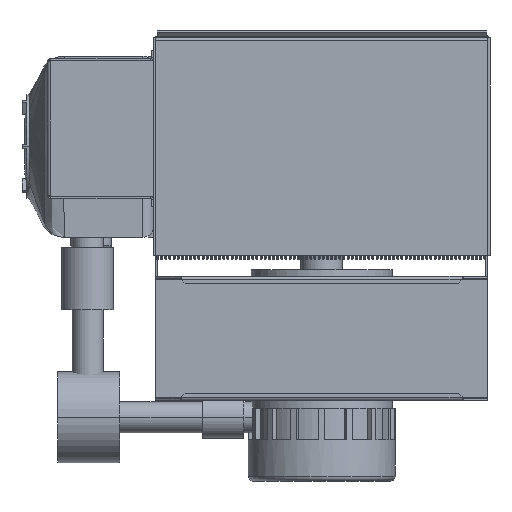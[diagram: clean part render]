
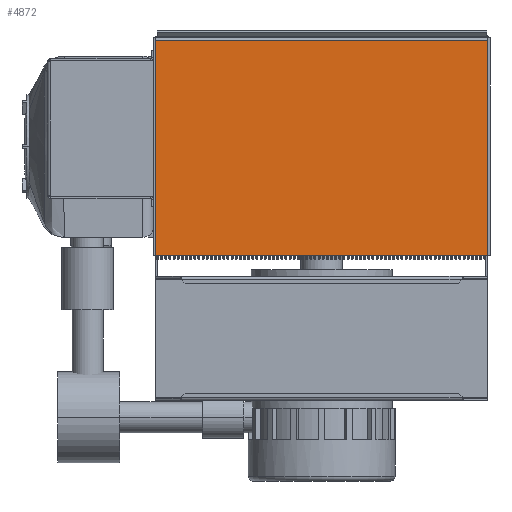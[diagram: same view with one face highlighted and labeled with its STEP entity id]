
A CAD part, front view. The second image highlights one B-rep face of the part: STEP entity #4872.
In plain terms, the highlighted planar face has unit normal (0, -1, 0) as drawn and (0, 0, 1) by its records, which use the part's own axes.
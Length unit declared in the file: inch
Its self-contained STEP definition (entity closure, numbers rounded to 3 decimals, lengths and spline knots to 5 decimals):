
#926 = AXIS2_PLACEMENT_3D ( 'NONE', #5507, #8531, #20781 ) ;
#2690 = ORIENTED_EDGE ( 'NONE', *, *, #19853, .T. ) ;
#2956 = DIRECTION ( 'NONE',  ( 1., 0., 0. ) ) ;
#4872 = ADVANCED_FACE ( 'NONE', ( #17079 ), #26777, .F. ) ;
#5507 = CARTESIAN_POINT ( 'NONE',  ( 0., 0., 0. ) ) ;
#6963 = EDGE_LOOP ( 'NONE', ( #2690, #24053, #31552, #30215 ) ) ;
#7127 = VERTEX_POINT ( 'NONE', #38735 ) ;
#8303 = LINE ( 'NONE', #30441, #34934 ) ;
#8531 = DIRECTION ( 'NONE',  ( 0., 0., -1. ) ) ;
#9084 = CARTESIAN_POINT ( 'NONE',  ( 8.025, 5.25, 0. ) ) ;
#12362 = CARTESIAN_POINT ( 'NONE',  ( 8.025, -5.1, 0. ) ) ;
#16361 = VERTEX_POINT ( 'NONE', #38157 ) ;
#17079 = FACE_OUTER_BOUND ( 'NONE', #6963, .T. ) ;
#17869 = DIRECTION ( 'NONE',  ( -1., 0., 0. ) ) ;
#18122 = VECTOR ( 'NONE', #35763, 39.37008 ) ;
#18180 = CARTESIAN_POINT ( 'NONE',  ( 8.025, 5.25, 0. ) ) ;
#19853 = EDGE_CURVE ( 'NONE', #7127, #27321, #8303, .T. ) ;
#20781 = DIRECTION ( 'NONE',  ( -1., 0., 0. ) ) ;
#22348 = VECTOR ( 'NONE', #17869, 39.37008 ) ;
#23200 = DIRECTION ( 'NONE',  ( 0., 1., 0. ) ) ;
#24053 = ORIENTED_EDGE ( 'NONE', *, *, #28340, .T. ) ;
#26648 = CARTESIAN_POINT ( 'NONE',  ( 8.025, 5.25, 0. ) ) ;
#26777 = PLANE ( 'NONE',  #926 ) ;
#27321 = VERTEX_POINT ( 'NONE', #12362 ) ;
#28340 = EDGE_CURVE ( 'NONE', #27321, #38132, #37014, .T. ) ;
#28881 = VECTOR ( 'NONE', #23200, 39.37008 ) ;
#30215 = ORIENTED_EDGE ( 'NONE', *, *, #32633, .T. ) ;
#30441 = CARTESIAN_POINT ( 'NONE',  ( -8.025, -5.1, 0. ) ) ;
#31552 = ORIENTED_EDGE ( 'NONE', *, *, #37135, .T. ) ;
#32294 = CARTESIAN_POINT ( 'NONE',  ( -8.025, 5.25, 0. ) ) ;
#32633 = EDGE_CURVE ( 'NONE', #16361, #7127, #36221, .T. ) ;
#34934 = VECTOR ( 'NONE', #2956, 39.37008 ) ;
#35763 = DIRECTION ( 'NONE',  ( 0., -1., 0. ) ) ;
#36221 = LINE ( 'NONE', #32294, #18122 ) ;
#37014 = LINE ( 'NONE', #26648, #28881 ) ;
#37135 = EDGE_CURVE ( 'NONE', #38132, #16361, #39036, .T. ) ;
#38132 = VERTEX_POINT ( 'NONE', #18180 ) ;
#38157 = CARTESIAN_POINT ( 'NONE',  ( -8.025, 5.25, 0. ) ) ;
#38735 = CARTESIAN_POINT ( 'NONE',  ( -8.025, -5.1, 0. ) ) ;
#39036 = LINE ( 'NONE', #9084, #22348 ) ;
